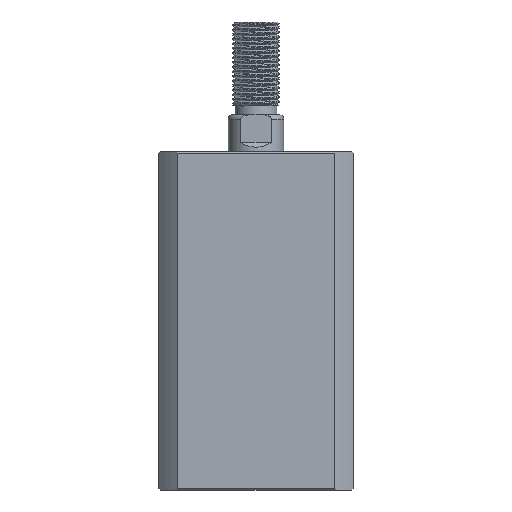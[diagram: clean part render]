
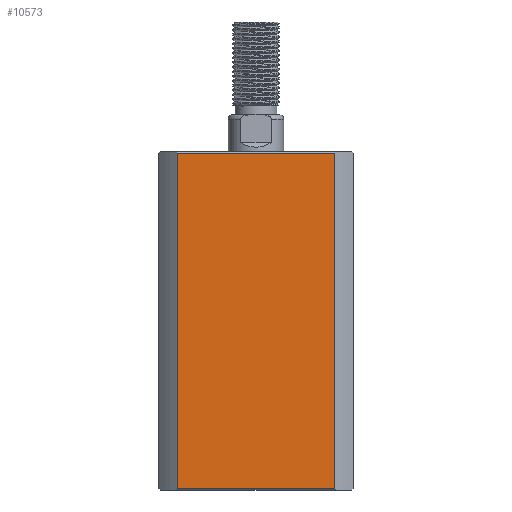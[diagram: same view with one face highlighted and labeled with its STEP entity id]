
A CAD part, left-side view. The second image highlights one B-rep face of the part: STEP entity #10573.
In plain terms, the highlighted planar face has unit normal (-1, 0, 0).
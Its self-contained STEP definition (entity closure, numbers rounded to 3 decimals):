
#420 = EDGE_CURVE ( 'NONE', #4847, #14183, #11905, .T. ) ;
#813 = LINE ( 'NONE', #14707, #12751 ) ;
#3668 = EDGE_CURVE ( 'NONE', #12445, #10605, #813, .T. ) ;
#3756 = ORIENTED_EDGE ( 'NONE', *, *, #3668, .F. ) ;
#4847 = VERTEX_POINT ( 'NONE', #10229 ) ;
#5238 = CARTESIAN_POINT ( 'NONE',  ( -21., 21., 0.3 ) ) ;
#5511 = PLANE ( 'NONE',  #5732 ) ;
#5595 = ORIENTED_EDGE ( 'NONE', *, *, #10268, .T. ) ;
#5732 = AXIS2_PLACEMENT_3D ( 'NONE', #6631, #6680, #14734 ) ;
#6631 = CARTESIAN_POINT ( 'NONE',  ( -21., 21., 73. ) ) ;
#6680 = DIRECTION ( 'NONE',  ( 1., 0., 0. ) ) ;
#6907 = DIRECTION ( 'NONE',  ( 0., 0., -1. ) ) ;
#6990 = CARTESIAN_POINT ( 'NONE',  ( -21., -16.971, -127. ) ) ;
#7171 = EDGE_CURVE ( 'NONE', #12445, #14183, #11115, .T. ) ;
#7215 = VECTOR ( 'NONE', #11937, 1000. ) ;
#7500 = CARTESIAN_POINT ( 'NONE',  ( -21., -16.971, 0.3 ) ) ;
#7817 = DIRECTION ( 'NONE',  ( 0., 0., 1. ) ) ;
#8488 = FACE_OUTER_BOUND ( 'NONE', #14269, .T. ) ;
#8808 = VECTOR ( 'NONE', #6907, 1000. ) ;
#10229 = CARTESIAN_POINT ( 'NONE',  ( -21., -16.971, 72.7 ) ) ;
#10237 = CARTESIAN_POINT ( 'NONE',  ( -21., 16.971, 72.7 ) ) ;
#10268 = EDGE_CURVE ( 'NONE', #4847, #10605, #10381, .T. ) ;
#10374 = ORIENTED_EDGE ( 'NONE', *, *, #7171, .T. ) ;
#10381 = LINE ( 'NONE', #10736, #7215 ) ;
#10573 = ADVANCED_FACE ( 'NONE', ( #8488 ), #5511, .F. ) ;
#10605 = VERTEX_POINT ( 'NONE', #10237 ) ;
#10736 = CARTESIAN_POINT ( 'NONE',  ( -21., 21., 72.7 ) ) ;
#11115 = LINE ( 'NONE', #5238, #11484 ) ;
#11484 = VECTOR ( 'NONE', #12212, 1000. ) ;
#11905 = LINE ( 'NONE', #6990, #8808 ) ;
#11937 = DIRECTION ( 'NONE',  ( 0., 1., 0. ) ) ;
#12208 = CARTESIAN_POINT ( 'NONE',  ( -21., 16.971, 0.3 ) ) ;
#12212 = DIRECTION ( 'NONE',  ( 0., -1., 0. ) ) ;
#12445 = VERTEX_POINT ( 'NONE', #12208 ) ;
#12751 = VECTOR ( 'NONE', #7817, 1000. ) ;
#14079 = ORIENTED_EDGE ( 'NONE', *, *, #420, .F. ) ;
#14183 = VERTEX_POINT ( 'NONE', #7500 ) ;
#14269 = EDGE_LOOP ( 'NONE', ( #3756, #10374, #14079, #5595 ) ) ;
#14707 = CARTESIAN_POINT ( 'NONE',  ( -21., 16.971, -127. ) ) ;
#14734 = DIRECTION ( 'NONE',  ( 0., 1., 0. ) ) ;
